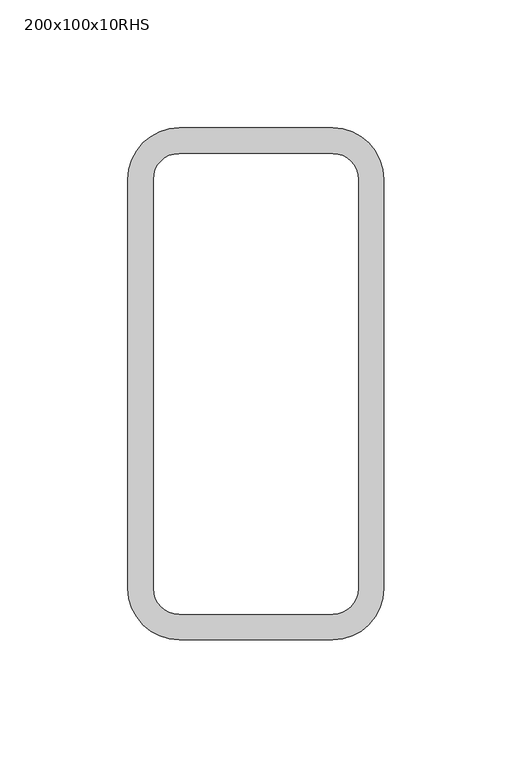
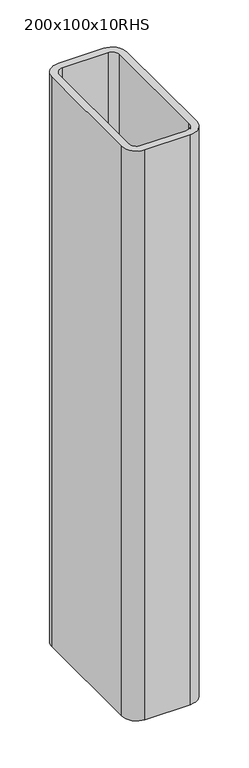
"""IFC4 building model written with IfcOpenShell, lengths in millimetres: column geometry, ППС-Прямоугольное пустотелое сечение-Колонна : 200x100x10RHS."""

from ifc_helpers import new_model, si_unit, point, frame, frame_2d, origin, place, context, project, spatial, polyline, circle_curve, trimmed, segment, composite_curve, outline, extrude, source, transform, mapped, element, save


def column_200x100x10rhs_a3d8feab(model_context):
    return source(origin(), model_context, "Body", "SweptSolid", [
        extrude(outline(composite_curve([segment(trimmed(circle_curve(frame_2d((30.0, 80.0)), 20.0), [point((30.0, 100.0))], [point((50.0, 80.0))], False, "CARTESIAN"), True, "CONTINUOUS"), segment(polyline([(50.0, 80.0), (50.0, -80.0)]), True, "CONTINUOUS"), segment(trimmed(circle_curve(frame_2d((30.0, -80.0)), 20.0), [point((50.0, -80.0))], [point((30.0, -100.0))], False, "CARTESIAN"), True, "CONTINUOUS"), segment(polyline([(30.0, -100.0), (-30.0, -100.0)]), True, "CONTINUOUS"), segment(trimmed(circle_curve(frame_2d((-30.0, -80.0)), 20.0), [point((-30.0, -100.0))], [point((-50.0, -80.0))], False, "CARTESIAN"), True, "CONTINUOUS"), segment(polyline([(-50.0, -80.0), (-50.0, 80.0)]), True, "CONTINUOUS"), segment(trimmed(circle_curve(frame_2d((-30.0, 80.0)), 20.0), [point((-50.0, 80.0))], [point((-30.0, 100.0))], False, "CARTESIAN"), True, "CONTINUOUS"), segment(polyline([(-30.0, 100.0), (30.0, 100.0)]), True, "CONTINUOUS")], self_intersect=False), holes=[composite_curve([segment(polyline([(30.0, 90.0), (-30.0, 90.0)]), True, "CONTINUOUS"), segment(trimmed(circle_curve(frame_2d((-30.0, 80.0)), 10.0), [point((-30.0, 90.0))], [point((-40.0, 80.0))], True, "CARTESIAN"), True, "CONTINUOUS"), segment(polyline([(-40.0, 80.0), (-40.0, -80.0)]), True, "CONTINUOUS"), segment(trimmed(circle_curve(frame_2d((-30.0, -80.0)), 10.0), [point((-40.0, -80.0))], [point((-30.0, -90.0))], True, "CARTESIAN"), True, "CONTINUOUS"), segment(polyline([(-30.0, -90.0), (30.0, -90.0)]), True, "CONTINUOUS"), segment(trimmed(circle_curve(frame_2d((30.0, -80.0)), 10.0), [point((30.0, -90.0))], [point((40.0, -80.0))], True, "CARTESIAN"), True, "CONTINUOUS"), segment(polyline([(40.0, -80.0), (40.0, 80.0)]), True, "CONTINUOUS"), segment(trimmed(circle_curve(frame_2d((30.0, 80.0)), 10.0), [point((40.0, 80.0))], [point((30.0, 90.0))], True, "CARTESIAN"), True, "CONTINUOUS")], self_intersect=False)]), frame((0.0, 0.0, 5025.0), z_axis=(0.0, 0.0, 1.0), x_axis=(1.0, 0.0, 0.0)), (0.0, 0.0, 1.0), 800.0),
    ])


if __name__ == "__main__":
    model = new_model("IFC4")
    model_context = context("Model", 3, world=origin())
    ifc_project = project(units=[si_unit("LENGTHUNIT", "METRE", prefix="MILLI")], contexts=[model_context])
    site = spatial("IfcSite", under=ifc_project)
    building = spatial("IfcBuilding", under=site)
    placement = place(None, origin())
    column_200x100x10rhs_shape = column_200x100x10rhs_a3d8feab(model_context)
    element("IfcColumn", 1, ObjectType="ППС-Прямоугольное пустотелое сечение-Колонна : 200x100x10RHS", at=placement, inside=building, context=model_context, shape_type="MappedRepresentation", body=[
        mapped(column_200x100x10rhs_shape, transform((0.0, 0.0, 0.0), x_axis=(1.0, 0.0, 0.0), y_axis=(0.0, 1.0, 0.0), z_axis=(0.0, 0.0, 1.0))),
    ])
    save(model, "model.ifc")
